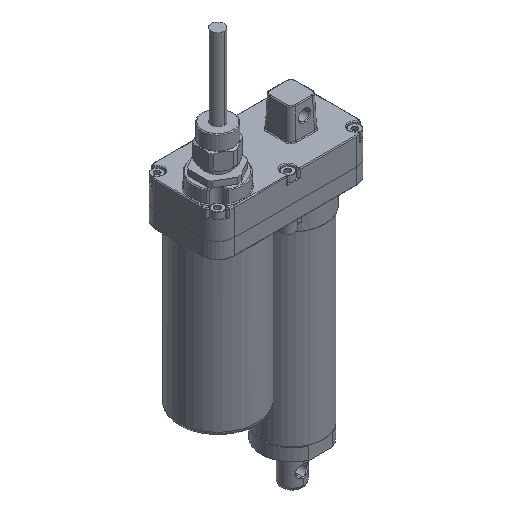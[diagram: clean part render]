
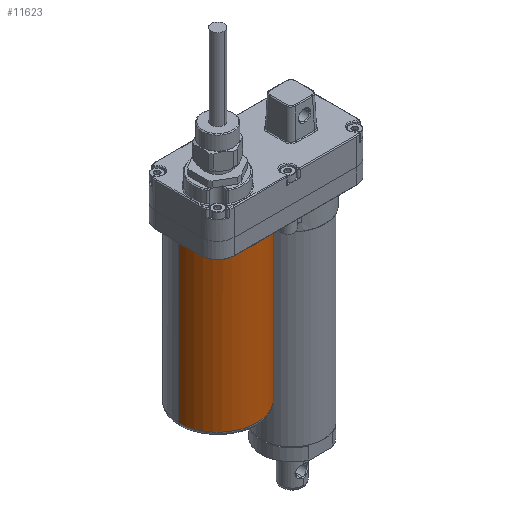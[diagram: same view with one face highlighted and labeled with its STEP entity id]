
A CAD part, isometric view. The second image highlights one B-rep face of the part: STEP entity #11623.
In plain terms, the highlighted cylindrical face has radius 24 mm (diameter 48 mm), a partial arc.
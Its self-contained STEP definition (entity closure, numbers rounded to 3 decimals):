
#10842=CARTESIAN_POINT('',(0.,0.,0.3));
#10843=DIRECTION('',(0.,0.,1.));
#10844=DIRECTION('',(-1.,0.,0.));
#10845=AXIS2_PLACEMENT_3D('',#10842,#10843,#10844);
#10847=CARTESIAN_POINT('',(0.,0.,0.3));
#10848=DIRECTION('',(0.,0.,1.));
#10849=DIRECTION('',(0.,-1.,0.));
#10850=AXIS2_PLACEMENT_3D('',#10847,#10848,#10849);
#10870=DIRECTION('',(0.,0.,-1.));
#10871=VECTOR('',#10870,95.2);
#10872=CARTESIAN_POINT('',(-24.,0.,95.5));
#10873=LINE('',#10872,#10871);
#10874=DIRECTION('',(0.,0.,-1.));
#10875=VECTOR('',#10874,95.2);
#10876=CARTESIAN_POINT('',(24.,0.,95.5));
#10877=LINE('',#10876,#10875);
#10878=CARTESIAN_POINT('',(0.,0.,95.5));
#10879=DIRECTION('',(0.,0.,-1.));
#10880=DIRECTION('',(1.,0.,0.));
#10881=AXIS2_PLACEMENT_3D('',#10878,#10879,#10880);
#10883=CARTESIAN_POINT('',(0.,0.,95.5));
#10884=DIRECTION('',(0.,0.,-1.));
#10885=DIRECTION('',(-1.,-0.008,0.));
#10886=AXIS2_PLACEMENT_3D('',#10883,#10884,#10885);
#11386=CARTESIAN_POINT('',(-24.,0.,0.3));
#11387=VERTEX_POINT('',#11386);
#11388=CARTESIAN_POINT('',(0.,-24.,0.3));
#11389=CARTESIAN_POINT('',(24.,0.,0.3));
#11390=VERTEX_POINT('',#11388);
#11391=VERTEX_POINT('',#11389);
#11394=CARTESIAN_POINT('',(24.,0.,95.5));
#11395=VERTEX_POINT('',#11394);
#11396=CARTESIAN_POINT('',(-24.,0.,95.5));
#11398=VERTEX_POINT('',#11396);
#11400=CARTESIAN_POINT('',(-23.999,-0.184,95.5));
#11401=VERTEX_POINT('',#11400);
#11608=CARTESIAN_POINT('',(0.,0.,0.));
#11609=DIRECTION('',(0.,0.,1.));
#11610=DIRECTION('',(1.,0.,0.));
#11611=AXIS2_PLACEMENT_3D('',#11608,#11609,#11610);
#11612=CYLINDRICAL_SURFACE('',#11611,24.);
#11613=ORIENTED_EDGE('',*,*,#11567,.F.);
#11614=ORIENTED_EDGE('',*,*,#11565,.F.);
#11615=ORIENTED_EDGE('',*,*,#11603,.F.);
#11617=ORIENTED_EDGE('',*,*,#11616,.F.);
#11619=ORIENTED_EDGE('',*,*,#11618,.F.);
#11620=ORIENTED_EDGE('',*,*,#11597,.T.);
#11621=EDGE_LOOP('',(#11613,#11614,#11615,#11617,#11619,#11620));
#11622=FACE_OUTER_BOUND('',#11621,.F.);
#11623=ADVANCED_FACE('',(#11622),#11612,.T.);
#10846=CIRCLE('',#10845,24.);
#10851=CIRCLE('',#10850,24.);
#10882=CIRCLE('',#10881,24.);
#10887=CIRCLE('',#10886,24.);
#11565=EDGE_CURVE('',#11387,#11390,#10846,.T.);
#11567=EDGE_CURVE('',#11390,#11391,#10851,.T.);
#11597=EDGE_CURVE('',#11395,#11391,#10877,.T.);
#11603=EDGE_CURVE('',#11398,#11387,#10873,.T.);
#11616=EDGE_CURVE('',#11401,#11398,#10887,.T.);
#11618=EDGE_CURVE('',#11395,#11401,#10882,.T.);
